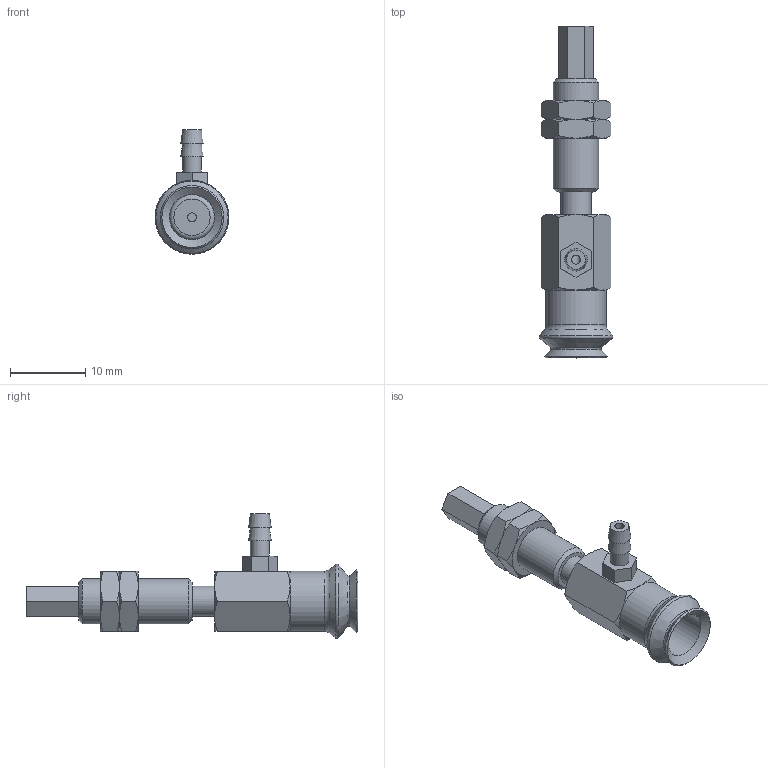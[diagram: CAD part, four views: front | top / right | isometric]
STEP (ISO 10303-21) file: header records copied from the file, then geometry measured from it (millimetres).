
FILE_DESCRIPTION(('STEP AP203'),'1');
FILE_NAME('-T.stp','2025-04-23T07:10:50',(' '),(' '),'Spatial InterOp 3D',' ',' ');
FILE_SCHEMA(('CONFIG_CONTROL_DESIGN'));
Length unit declared in the file: millimetre
Products named in the file (7): BNABPJYS-8-3-※-T; CONNECTOR_S-8-3; NUT-NAPJ-8-3-s; NAPJTS-8-3-FBODY; NAPJTS-8-3-MBODY; BPJG-8-※; T (2)
Assembly tree (7 placements, depth 2):
  BNABPJYS-8-3-※-T
    CONNECTOR_S-8-3
    NUT-NAPJ-8-3-s  x2
    NAPJTS-8-3-FBODY
    NAPJTS-8-3-MBODY
    BPJG-8-※
    T (2)
Bounding box: 9.8 x 44 x 16.5 mm (x, y, z)
Volume: 1598.1 mm3; surface area: 2495.2 mm2
Topology: 7 solids, 7 shells, 147 faces, 310 edges, 186 vertices
Faces by surface type: plane 67, cone 56, cylinder 17, torus 7
Full cylindrical faces by diameter (mm): 1.2 x2, 2.459 x2, 2.5 x1, 3 x2, 4 x4, 5.188 x2, 6 x3, 8 x1
Entity records: 3612 total; most frequent: CARTESIAN_POINT 818, DIRECTION 514, ORIENTED_EDGE 432, AXIS2_PLACEMENT_3D 220, EDGE_CURVE 216, EDGE_LOOP 184, VERTEX_POINT 152, FACE_OUTER_BOUND 147
